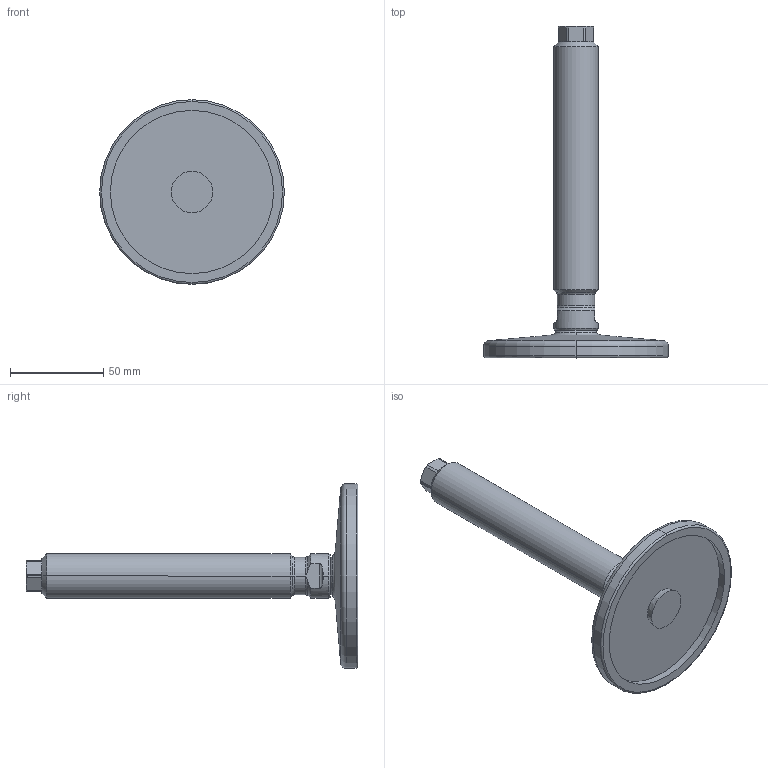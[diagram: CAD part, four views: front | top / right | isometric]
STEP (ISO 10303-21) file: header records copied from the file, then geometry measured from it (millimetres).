
FILE_DESCRIPTION (( 'STEP AP214' ), '1' );
FILE_NAME ('21-100-M24-150-D0-V.step', '2020-10-02T17:36:50', ( '' ), ( '' ), 'SwSTEP 2.0', 'SolidWorks 2019', '' );
FILE_SCHEMA (( 'AUTOMOTIVE_DESIGN' ));
Length unit declared in the file: millimetre
Products named in the file (3): 21-100-M24-150-D0-V; WB21_Spindel_V^WB21_V_M24-150; WB21_Fußteller 21^WB21_V_D0-100-R14-B9 (M24)
Assembly tree (2 placements, depth 2):
  21-100-M24-150-D0-V
    WB21_Fußteller 21^WB21_V_D0-100-R14-B9 (M24)
    WB21_Spindel_V^WB21_V_M24-150
Bounding box: 99 x 177.9 x 99 mm (x, y, z)
Volume: 124935.8 mm3; surface area: 32689.6 mm2
Topology: 2 solids, 2 shells, 79 faces, 177 edges, 105 vertices
Faces by surface type: cylinder 23, cone 21, plane 21, torus 10, sphere 4
Entity records: 2446 total; most frequent: CARTESIAN_POINT 530, DIRECTION 406, ORIENTED_EDGE 354, EDGE_CURVE 177, AXIS2_PLACEMENT_3D 173, VERTEX_POINT 105, CIRCLE 89, EDGE_LOOP 82
